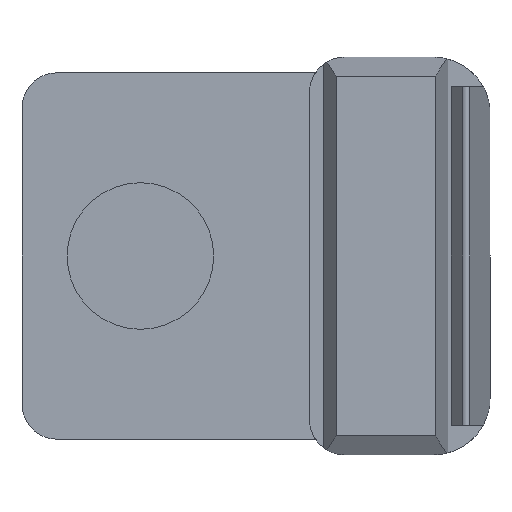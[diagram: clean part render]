
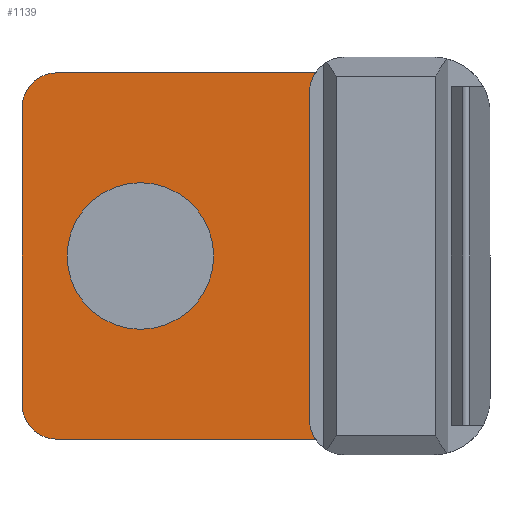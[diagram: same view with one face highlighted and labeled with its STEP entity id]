
A CAD part, front view. The second image highlights one B-rep face of the part: STEP entity #1139.
In plain terms, the highlighted planar face has unit normal (0, -1, 0).
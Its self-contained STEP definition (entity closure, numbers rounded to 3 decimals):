
#44 = ORIENTED_EDGE ( 'NONE', *, *, #1189, .F. ) ;
#49 = ORIENTED_EDGE ( 'NONE', *, *, #748, .F. ) ;
#50 = ORIENTED_EDGE ( 'NONE', *, *, #834, .T. ) ;
#64 = ORIENTED_EDGE ( 'NONE', *, *, #1157, .T. ) ;
#65 = ORIENTED_EDGE ( 'NONE', *, *, #1177, .F. ) ;
#119 = ORIENTED_EDGE ( 'NONE', *, *, #1196, .T. ) ;
#120 = ORIENTED_EDGE ( 'NONE', *, *, #1206, .T. ) ;
#126 = ORIENTED_EDGE ( 'NONE', *, *, #1168, .T. ) ;
#141 = EDGE_LOOP ( 'NONE', ( #49, #44 ) ) ;
#143 = ORIENTED_EDGE ( 'NONE', *, *, #1183, .T. ) ;
#158 = ORIENTED_EDGE ( 'NONE', *, *, #1225, .T. ) ;
#212 = EDGE_LOOP ( 'NONE', ( #158, #50, #143, #64, #65, #120, #119, #126 ) ) ;
#286 = CARTESIAN_POINT ( 'NONE',  ( 12., 0., 14.1 ) ) ;
#287 = PLANE ( 'NONE',  #784 ) ;
#288 = DIRECTION ( 'NONE',  ( 0., 1., 0. ) ) ;
#289 = DIRECTION ( 'NONE',  ( -1., 0., 0. ) ) ;
#362 = CARTESIAN_POINT ( 'NONE',  ( 14.5, 0., -11.6 ) ) ;
#363 = DIRECTION ( 'NONE',  ( 0., 1., 0. ) ) ;
#364 = DIRECTION ( 'NONE',  ( -1., 0., 0. ) ) ;
#385 = CARTESIAN_POINT ( 'NONE',  ( -5.9, 0., 10.5 ) ) ;
#390 = DIRECTION ( 'NONE',  ( 0., -1., 0. ) ) ;
#391 = DIRECTION ( 'NONE',  ( -1., 0., 0. ) ) ;
#413 = CARTESIAN_POINT ( 'NONE',  ( -8.4, 0., -13. ) ) ;
#414 = CARTESIAN_POINT ( 'NONE',  ( 12., 0., 14.1 ) ) ;
#415 = DIRECTION ( 'NONE',  ( 0., 0., -1. ) ) ;
#427 = DIRECTION ( 'NONE',  ( 1., 0., 0. ) ) ;
#436 = CARTESIAN_POINT ( 'NONE',  ( 0., 0., 0. ) ) ;
#442 = DIRECTION ( 'NONE',  ( 0., -1., 0. ) ) ;
#443 = DIRECTION ( 'NONE',  ( 0., 0., 1. ) ) ;
#458 = CARTESIAN_POINT ( 'NONE',  ( -8.4, 0., 13. ) ) ;
#459 = DIRECTION ( 'NONE',  ( -1., 0., 0. ) ) ;
#483 = CARTESIAN_POINT ( 'NONE',  ( 14.5, 0., 11.6 ) ) ;
#486 = DIRECTION ( 'NONE',  ( 0., 1., 0. ) ) ;
#487 = DIRECTION ( 'NONE',  ( -1., 0., 0. ) ) ;
#532 = CARTESIAN_POINT ( 'NONE',  ( -8.4, 0., -13. ) ) ;
#533 = DIRECTION ( 'NONE',  ( 0., 0., -1. ) ) ;
#579 = VERTEX_POINT ( 'NONE', #608 ) ;
#581 = VERTEX_POINT ( 'NONE', #613 ) ;
#596 = VERTEX_POINT ( 'NONE', #620 ) ;
#608 = CARTESIAN_POINT ( 'NONE',  ( -8.4, 0., -10.5 ) ) ;
#613 = CARTESIAN_POINT ( 'NONE',  ( -8.4, 0., 10.5 ) ) ;
#620 = CARTESIAN_POINT ( 'NONE',  ( 0., 0., -5.2 ) ) ;
#637 = CARTESIAN_POINT ( 'NONE',  ( 0., 0., 0. ) ) ;
#638 = DIRECTION ( 'NONE',  ( 0., -1., 0. ) ) ;
#639 = DIRECTION ( 'NONE',  ( 0., 0., 1. ) ) ;
#697 = CARTESIAN_POINT ( 'NONE',  ( -5.9, 0., -10.5 ) ) ;
#699 = DIRECTION ( 'NONE',  ( 0., -1., 0. ) ) ;
#700 = DIRECTION ( 'NONE',  ( -1., 0., 0. ) ) ;
#701 = CARTESIAN_POINT ( 'NONE',  ( 12., 0., -11.6 ) ) ;
#708 = CARTESIAN_POINT ( 'NONE',  ( 0., 0., 5.2 ) ) ;
#709 = CARTESIAN_POINT ( 'NONE',  ( 12.429, 0., 13. ) ) ;
#719 = CARTESIAN_POINT ( 'NONE',  ( -5.9, 0., -13. ) ) ;
#720 = CARTESIAN_POINT ( 'NONE',  ( -5.9, 0., 13. ) ) ;
#721 = CARTESIAN_POINT ( 'NONE',  ( 12., 0., 11.6 ) ) ;
#722 = CARTESIAN_POINT ( 'NONE',  ( 12.429, 0., -13. ) ) ;
#748 = EDGE_CURVE ( 'NONE', #855, #596, #1089, .T. ) ;
#760 = AXIS2_PLACEMENT_3D ( 'NONE', #436, #442, #443 ) ;
#763 = AXIS2_PLACEMENT_3D ( 'NONE', #483, #486, #487 ) ;
#771 = AXIS2_PLACEMENT_3D ( 'NONE', #385, #390, #391 ) ;
#778 = AXIS2_PLACEMENT_3D ( 'NONE', #697, #699, #700 ) ;
#784 = AXIS2_PLACEMENT_3D ( 'NONE', #286, #288, #289 ) ;
#795 = AXIS2_PLACEMENT_3D ( 'NONE', #637, #638, #639 ) ;
#828 = AXIS2_PLACEMENT_3D ( 'NONE', #362, #363, #364 ) ;
#834 = EDGE_CURVE ( 'NONE', #579, #867, #996, .T. ) ;
#848 = VERTEX_POINT ( 'NONE', #701 ) ;
#855 = VERTEX_POINT ( 'NONE', #708 ) ;
#857 = VERTEX_POINT ( 'NONE', #709 ) ;
#867 = VERTEX_POINT ( 'NONE', #719 ) ;
#868 = VERTEX_POINT ( 'NONE', #720 ) ;
#869 = VERTEX_POINT ( 'NONE', #721 ) ;
#870 = VERTEX_POINT ( 'NONE', #722 ) ;
#882 = CIRCLE ( 'NONE', #771, 2.5 ) ;
#888 = LINE ( 'NONE', #413, #903 ) ;
#890 = LINE ( 'NONE', #414, #892 ) ;
#892 = VECTOR ( 'NONE', #415, 1000. ) ;
#903 = VECTOR ( 'NONE', #427, 1000. ) ;
#905 = VECTOR ( 'NONE', #459, 1000. ) ;
#918 = CIRCLE ( 'NONE', #760, 5.2 ) ;
#919 = LINE ( 'NONE', #458, #905 ) ;
#953 = LINE ( 'NONE', #532, #957 ) ;
#957 = VECTOR ( 'NONE', #533, 1000. ) ;
#969 = FACE_BOUND ( 'NONE', #141, .T. ) ;
#985 = CIRCLE ( 'NONE', #763, 2.5 ) ;
#994 = FACE_OUTER_BOUND ( 'NONE', #212, .T. ) ;
#996 = CIRCLE ( 'NONE', #778, 2.5 ) ;
#1027 = CIRCLE ( 'NONE', #828, 2.5 ) ;
#1089 = CIRCLE ( 'NONE', #795, 5.2 ) ;
#1139 = ADVANCED_FACE ( 'NONE', ( #994, #969 ), #287, .F. ) ;
#1157 = EDGE_CURVE ( 'NONE', #870, #848, #1027, .T. ) ;
#1168 = EDGE_CURVE ( 'NONE', #868, #581, #882, .T. ) ;
#1177 = EDGE_CURVE ( 'NONE', #869, #848, #890, .T. ) ;
#1183 = EDGE_CURVE ( 'NONE', #867, #870, #888, .T. ) ;
#1189 = EDGE_CURVE ( 'NONE', #596, #855, #918, .T. ) ;
#1196 = EDGE_CURVE ( 'NONE', #857, #868, #919, .T. ) ;
#1206 = EDGE_CURVE ( 'NONE', #869, #857, #985, .T. ) ;
#1225 = EDGE_CURVE ( 'NONE', #581, #579, #953, .T. ) ;
